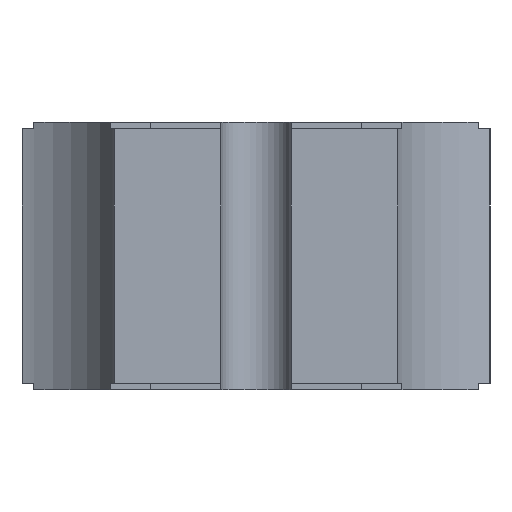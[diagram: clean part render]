
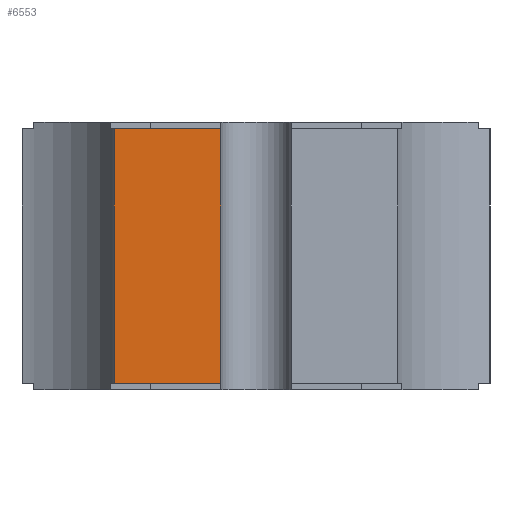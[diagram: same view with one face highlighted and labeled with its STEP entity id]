
A CAD part, left-side view. The second image highlights one B-rep face of the part: STEP entity #6553.
In plain terms, the highlighted planar face has unit normal (-1, 0, 0).
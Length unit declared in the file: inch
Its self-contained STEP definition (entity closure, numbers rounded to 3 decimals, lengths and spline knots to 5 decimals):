
#315=PLANE('',#6823);
#639=FACE_OUTER_BOUND('',#1014,.T.);
#1014=EDGE_LOOP('',(#5640,#5641,#5642,#5643));
#1535=LINE('',#10957,#2146);
#1622=LINE('',#11170,#2233);
#1624=LINE('',#11181,#2235);
#1625=LINE('',#11182,#2236);
#2146=VECTOR('',#7719,0.04548);
#2233=VECTOR('',#7918,0.04548);
#2235=VECTOR('',#7934,0.1088);
#2236=VECTOR('',#7935,0.1088);
#2981=VERTEX_POINT('',#10860);
#3015=VERTEX_POINT('',#10956);
#3066=VERTEX_POINT('',#11103);
#3085=VERTEX_POINT('',#11168);
#3855=EDGE_CURVE('',#2981,#3015,#1535,.T.);
#3961=EDGE_CURVE('',#3066,#3085,#1622,.T.);
#3965=EDGE_CURVE('',#3085,#3015,#1624,.T.);
#3966=EDGE_CURVE('',#3066,#2981,#1625,.T.);
#5640=ORIENTED_EDGE('',*,*,#3961,.T.);
#5641=ORIENTED_EDGE('',*,*,#3965,.T.);
#5642=ORIENTED_EDGE('',*,*,#3855,.F.);
#5643=ORIENTED_EDGE('',*,*,#3966,.F.);
#6553=ADVANCED_FACE('',(#639),#315,.T.);
#6823=AXIS2_PLACEMENT_3D('',#11180,#7932,#7933);
#7719=DIRECTION('',(0.,1.,0.));
#7918=DIRECTION('',(0.,1.,0.));
#7932=DIRECTION('center_axis',(-1.,0.,0.));
#7933=DIRECTION('ref_axis',(0.,1.,0.));
#7934=DIRECTION('',(0.,0.,-1.));
#7935=DIRECTION('',(0.,0.,-1.));
#10860=CARTESIAN_POINT('',(-0.03952,0.115,-0.1088));
#10956=CARTESIAN_POINT('',(-0.03952,0.16048,-0.1088));
#10957=CARTESIAN_POINT('',(-0.03952,0.115,-0.1088));
#11103=CARTESIAN_POINT('',(-0.03952,0.115,0.));
#11168=CARTESIAN_POINT('',(-0.03952,0.16048,0.));
#11170=CARTESIAN_POINT('',(-0.03952,0.115,0.));
#11180=CARTESIAN_POINT('Origin',(-0.03952,0.115,
0.));
#11181=CARTESIAN_POINT('',(-0.03952,0.16048,0.));
#11182=CARTESIAN_POINT('',(-0.03952,0.115,0.));
